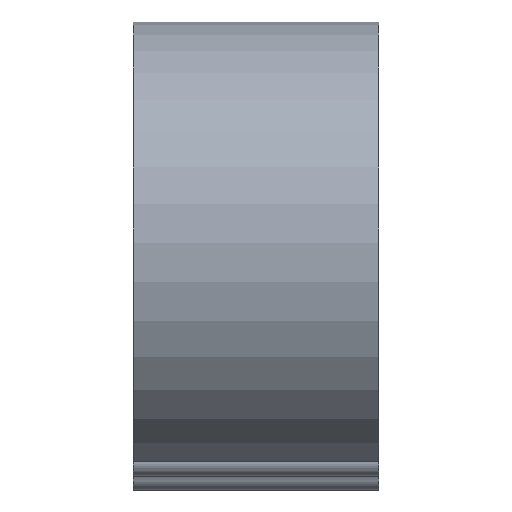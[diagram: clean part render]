
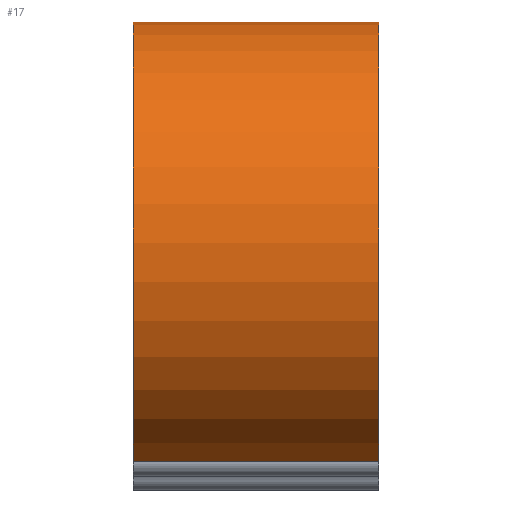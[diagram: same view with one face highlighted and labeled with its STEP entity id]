
A CAD part, top view. The second image highlights one B-rep face of the part: STEP entity #17.
In plain terms, the highlighted cylindrical face has radius 83 mm (diameter 166 mm), a partial arc.
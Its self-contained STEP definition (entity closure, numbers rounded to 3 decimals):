
#17 = ADVANCED_FACE('',(#18),#33,.T.);
#18 = FACE_BOUND('',#19,.F.);
#19 = EDGE_LOOP('',(#20,#56,#84,#113));
#20 = ORIENTED_EDGE('',*,*,#21,.F.);
#21 = EDGE_CURVE('',#22,#24,#26,.T.);
#22 = VERTEX_POINT('',#23);
#23 = CARTESIAN_POINT('',(-44.5,298.,103.));
#24 = VERTEX_POINT('',#25);
#25 = CARTESIAN_POINT('',(-44.5,138.782,135.861));
#26 = SURFACE_CURVE('',#27,(#32,#44),.PCURVE_S1.);
#27 = CIRCLE('',#28,83.);
#28 = AXIS2_PLACEMENT_3D('',#29,#30,#31);
#29 = CARTESIAN_POINT('',(-44.5,215.,103.));
#30 = DIRECTION('',(1.,0.,0.));
#31 = DIRECTION('',(-0.,1.,0.));
#32 = PCURVE('',#33,#38);
#33 = CYLINDRICAL_SURFACE('',#34,83.);
#34 = AXIS2_PLACEMENT_3D('',#35,#36,#37);
#35 = CARTESIAN_POINT('',(-44.5,215.,103.));
#36 = DIRECTION('',(-1.,-0.,-0.));
#37 = DIRECTION('',(-0.,1.,0.));
#38 = DEFINITIONAL_REPRESENTATION('',(#39),#43);
#39 = LINE('',#40,#41);
#40 = CARTESIAN_POINT('',(-0.,0.));
#41 = VECTOR('',#42,1.);
#42 = DIRECTION('',(-1.,0.));
#43 = ( GEOMETRIC_REPRESENTATION_CONTEXT(2) 
PARAMETRIC_REPRESENTATION_CONTEXT() REPRESENTATION_CONTEXT('2D SPACE',''
  ) );
#44 = PCURVE('',#45,#50);
#45 = PLANE('',#46);
#46 = AXIS2_PLACEMENT_3D('',#47,#48,#49);
#47 = CARTESIAN_POINT('',(-44.5,208.039,142.477));
#48 = DIRECTION('',(1.,0.,0.));
#49 = DIRECTION('',(-0.,0.,1.));
#50 = DEFINITIONAL_REPRESENTATION('',(#51),#55);
#51 = CIRCLE('',#52,83.);
#52 = AXIS2_PLACEMENT_2D('',#53,#54);
#53 = CARTESIAN_POINT('',(-39.477,-6.961));
#54 = DIRECTION('',(0.,-1.));
#55 = ( GEOMETRIC_REPRESENTATION_CONTEXT(2) 
PARAMETRIC_REPRESENTATION_CONTEXT() REPRESENTATION_CONTEXT('2D SPACE',''
  ) );
#56 = ORIENTED_EDGE('',*,*,#57,.T.);
#57 = EDGE_CURVE('',#22,#58,#60,.T.);
#58 = VERTEX_POINT('',#59);
#59 = CARTESIAN_POINT('',(44.5,298.,103.));
#60 = SURFACE_CURVE('',#61,(#65,#72),.PCURVE_S1.);
#61 = LINE('',#62,#63);
#62 = CARTESIAN_POINT('',(-44.5,298.,103.));
#63 = VECTOR('',#64,1.);
#64 = DIRECTION('',(1.,0.,0.));
#65 = PCURVE('',#33,#66);
#66 = DEFINITIONAL_REPRESENTATION('',(#67),#71);
#67 = LINE('',#68,#69);
#68 = CARTESIAN_POINT('',(-0.,0.));
#69 = VECTOR('',#70,1.);
#70 = DIRECTION('',(-0.,-1.));
#71 = ( GEOMETRIC_REPRESENTATION_CONTEXT(2) 
PARAMETRIC_REPRESENTATION_CONTEXT() REPRESENTATION_CONTEXT('2D SPACE',''
  ) );
#72 = PCURVE('',#73,#78);
#73 = PLANE('',#74);
#74 = AXIS2_PLACEMENT_3D('',#75,#76,#77);
#75 = CARTESIAN_POINT('',(-44.5,295.,103.));
#76 = DIRECTION('',(-0.,0.,1.));
#77 = DIRECTION('',(0.,1.,0.));
#78 = DEFINITIONAL_REPRESENTATION('',(#79),#83);
#79 = LINE('',#80,#81);
#80 = CARTESIAN_POINT('',(3.,0.));
#81 = VECTOR('',#82,1.);
#82 = DIRECTION('',(0.,-1.));
#83 = ( GEOMETRIC_REPRESENTATION_CONTEXT(2) 
PARAMETRIC_REPRESENTATION_CONTEXT() REPRESENTATION_CONTEXT('2D SPACE',''
  ) );
#84 = ORIENTED_EDGE('',*,*,#85,.T.);
#85 = EDGE_CURVE('',#58,#86,#88,.T.);
#86 = VERTEX_POINT('',#87);
#87 = CARTESIAN_POINT('',(44.5,138.782,135.861));
#88 = SURFACE_CURVE('',#89,(#94,#101),.PCURVE_S1.);
#89 = CIRCLE('',#90,83.);
#90 = AXIS2_PLACEMENT_3D('',#91,#92,#93);
#91 = CARTESIAN_POINT('',(44.5,215.,103.));
#92 = DIRECTION('',(1.,0.,0.));
#93 = DIRECTION('',(-0.,1.,0.));
#94 = PCURVE('',#33,#95);
#95 = DEFINITIONAL_REPRESENTATION('',(#96),#100);
#96 = LINE('',#97,#98);
#97 = CARTESIAN_POINT('',(-0.,-89.));
#98 = VECTOR('',#99,1.);
#99 = DIRECTION('',(-1.,0.));
#100 = ( GEOMETRIC_REPRESENTATION_CONTEXT(2) 
PARAMETRIC_REPRESENTATION_CONTEXT() REPRESENTATION_CONTEXT('2D SPACE',''
  ) );
#101 = PCURVE('',#102,#107);
#102 = PLANE('',#103);
#103 = AXIS2_PLACEMENT_3D('',#104,#105,#106);
#104 = CARTESIAN_POINT('',(44.5,208.039,142.477));
#105 = DIRECTION('',(1.,0.,0.));
#106 = DIRECTION('',(-0.,0.,1.));
#107 = DEFINITIONAL_REPRESENTATION('',(#108),#112);
#108 = CIRCLE('',#109,83.);
#109 = AXIS2_PLACEMENT_2D('',#110,#111);
#110 = CARTESIAN_POINT('',(-39.477,-6.961));
#111 = DIRECTION('',(0.,-1.));
#112 = ( GEOMETRIC_REPRESENTATION_CONTEXT(2) 
PARAMETRIC_REPRESENTATION_CONTEXT() REPRESENTATION_CONTEXT('2D SPACE',''
  ) );
#113 = ORIENTED_EDGE('',*,*,#114,.T.);
#114 = EDGE_CURVE('',#86,#24,#115,.T.);
#115 = SURFACE_CURVE('',#116,(#120,#126),.PCURVE_S1.);
#116 = LINE('',#117,#118);
#117 = CARTESIAN_POINT('',(-44.5,138.782,135.861));
#118 = VECTOR('',#119,1.);
#119 = DIRECTION('',(-1.,-0.,-0.));
#120 = PCURVE('',#33,#121);
#121 = DEFINITIONAL_REPRESENTATION('',(#122),#125);
#122 = B_SPLINE_CURVE_WITH_KNOTS('',1,(#123,#124),.UNSPECIFIED.,.F.,.F.,
  (2,2),(-89.,0.),.PIECEWISE_BEZIER_KNOTS.);
#123 = CARTESIAN_POINT('',(-2.735,-89.));
#124 = CARTESIAN_POINT('',(-2.735,0.));
#125 = ( GEOMETRIC_REPRESENTATION_CONTEXT(2) 
PARAMETRIC_REPRESENTATION_CONTEXT() REPRESENTATION_CONTEXT('2D SPACE',''
  ) );
#126 = PCURVE('',#127,#132);
#127 = CYLINDRICAL_SURFACE('',#128,5.);
#128 = AXIS2_PLACEMENT_3D('',#129,#130,#131);
#129 = CARTESIAN_POINT('',(-44.5,138.415,130.875));
#130 = DIRECTION('',(-1.,-0.,-0.));
#131 = DIRECTION('',(0.,1.,0.));
#132 = DEFINITIONAL_REPRESENTATION('',(#133),#136);
#133 = B_SPLINE_CURVE_WITH_KNOTS('',1,(#134,#135),.UNSPECIFIED.,.F.,.F.,
  (2,2),(-89.,0.),.PIECEWISE_BEZIER_KNOTS.);
#134 = CARTESIAN_POINT('',(-1.497,-89.));
#135 = CARTESIAN_POINT('',(-1.497,0.));
#136 = ( GEOMETRIC_REPRESENTATION_CONTEXT(2) 
PARAMETRIC_REPRESENTATION_CONTEXT() REPRESENTATION_CONTEXT('2D SPACE',''
  ) );
